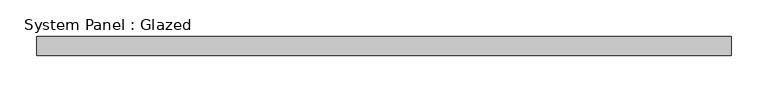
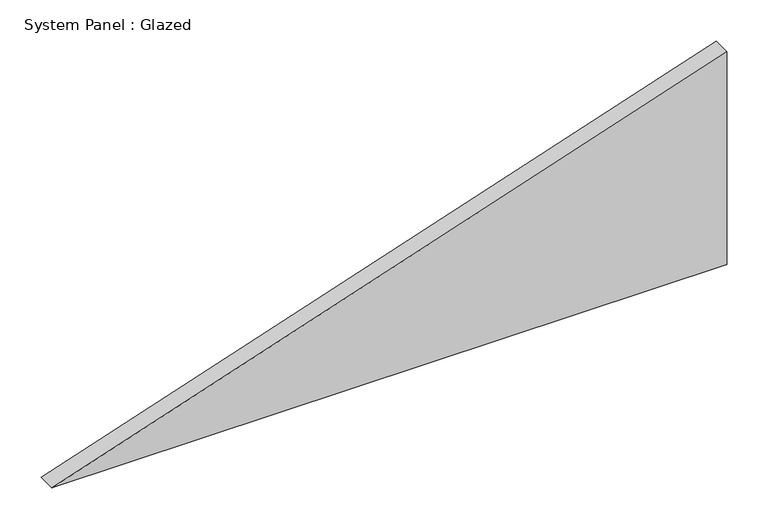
"""IFC4 building model written with IfcOpenShell, lengths in millimetres: plate geometry, System Panel : Glazed."""

from ifc_helpers import new_model, si_unit, frame, origin, place, context, project, spatial, polyline, outline, extrude, source, transform, mapped, element, save


def system_panel_glazed_079f77b7(model_context):
    return source(origin(), model_context, "Body", "SweptSolid", [
        extrude(outline(polyline([(0.0, -471.0976843), (0.0, 471.0976843), (314.0651229, 471.0976843), (0.0, -471.0976843)])), frame((0.0, -44.45, 0.0), z_axis=(0.0, 1.0, 0.0), x_axis=(0.0, 0.0, 1.0)), (0.0, 0.0, 1.0), 25.4),
    ])


if __name__ == "__main__":
    model = new_model("IFC4")
    model_context = context("Model", 3, world=origin())
    ifc_project = project(units=[si_unit("LENGTHUNIT", "METRE", prefix="MILLI")], contexts=[model_context])
    site = spatial("IfcSite", under=ifc_project)
    building = spatial("IfcBuilding", under=site)
    placement = place(None, origin())
    system_panel_glazed_shape = system_panel_glazed_079f77b7(model_context)
    element("IfcPlate", 1, ObjectType="System Panel : Glazed", at=placement, inside=building, context=model_context, shape_type="MappedRepresentation", body=[
        mapped(system_panel_glazed_shape, transform((0.0, 0.0, 0.0), x_axis=(1.0, 0.0, 0.0), y_axis=(0.0, 1.0, 0.0), z_axis=(0.0, 0.0, 1.0))),
    ])
    save(model, "model.ifc")
